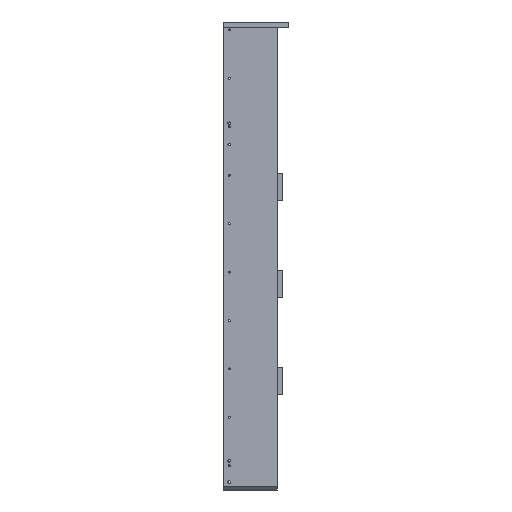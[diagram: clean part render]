
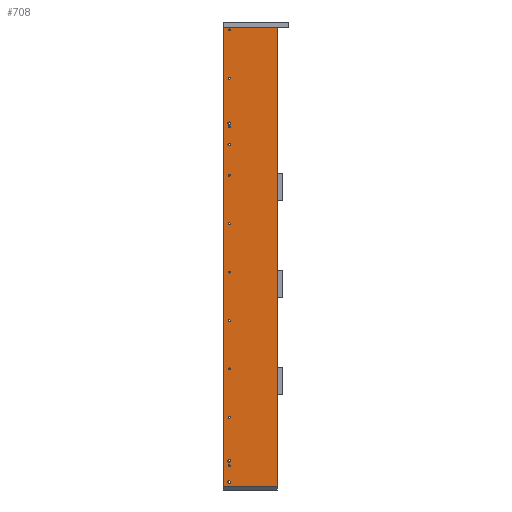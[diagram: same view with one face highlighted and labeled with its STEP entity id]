
A CAD part, left-side view. The second image highlights one B-rep face of the part: STEP entity #708.
In plain terms, the highlighted planar face has unit normal (-1, 0, 0).
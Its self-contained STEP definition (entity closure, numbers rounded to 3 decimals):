
#120=FACE_BOUND('',#1236,.T.);
#121=FACE_BOUND('',#1237,.T.);
#122=FACE_BOUND('',#1238,.T.);
#123=FACE_BOUND('',#1239,.T.);
#124=FACE_BOUND('',#1240,.T.);
#125=FACE_BOUND('',#1241,.T.);
#126=FACE_BOUND('',#1242,.T.);
#127=FACE_BOUND('',#1243,.T.);
#128=FACE_BOUND('',#1244,.T.);
#129=FACE_BOUND('',#1245,.T.);
#130=FACE_BOUND('',#1246,.T.);
#131=FACE_BOUND('',#1247,.T.);
#132=FACE_BOUND('',#1248,.T.);
#133=FACE_BOUND('',#1249,.T.);
#134=FACE_BOUND('',#1250,.T.);
#371=CIRCLE('',#4027,3.4);
#372=CIRCLE('',#4028,3.4);
#373=CIRCLE('',#4029,3.4);
#374=CIRCLE('',#4030,3.4);
#375=CIRCLE('',#4031,2.5);
#376=CIRCLE('',#4032,2.5);
#377=CIRCLE('',#4033,2.5);
#378=CIRCLE('',#4034,2.5);
#379=CIRCLE('',#4035,2.5);
#380=CIRCLE('',#4036,2.5);
#381=CIRCLE('',#4037,2.5);
#382=CIRCLE('',#4038,2.5);
#383=CIRCLE('',#4039,2.5);
#384=CIRCLE('',#4040,2.5);
#708=ADVANCED_FACE('',(#120,#121,#122,#123,#124,#125,#126,#127,#128,#129,
#130,#131,#132,#133,#134),#926,.F.);
#926=PLANE('',#4041);
#1236=EDGE_LOOP('',(#1737));
#1237=EDGE_LOOP('',(#1738));
#1238=EDGE_LOOP('',(#1739));
#1239=EDGE_LOOP('',(#1740));
#1240=EDGE_LOOP('',(#1741));
#1241=EDGE_LOOP('',(#1742));
#1242=EDGE_LOOP('',(#1743));
#1243=EDGE_LOOP('',(#1744));
#1244=EDGE_LOOP('',(#1745));
#1245=EDGE_LOOP('',(#1746));
#1246=EDGE_LOOP('',(#1747));
#1247=EDGE_LOOP('',(#1748));
#1248=EDGE_LOOP('',(#1749));
#1249=EDGE_LOOP('',(#1750));
#1250=EDGE_LOOP('',(#1751,#1752,#1753,#1754));
#1737=ORIENTED_EDGE('',*,*,#2921,.T.);
#1738=ORIENTED_EDGE('',*,*,#2922,.T.);
#1739=ORIENTED_EDGE('',*,*,#2923,.T.);
#1740=ORIENTED_EDGE('',*,*,#2924,.T.);
#1741=ORIENTED_EDGE('',*,*,#2925,.T.);
#1742=ORIENTED_EDGE('',*,*,#2926,.T.);
#1743=ORIENTED_EDGE('',*,*,#2927,.T.);
#1744=ORIENTED_EDGE('',*,*,#2928,.T.);
#1745=ORIENTED_EDGE('',*,*,#2929,.T.);
#1746=ORIENTED_EDGE('',*,*,#2930,.T.);
#1747=ORIENTED_EDGE('',*,*,#2931,.T.);
#1748=ORIENTED_EDGE('',*,*,#2932,.T.);
#1749=ORIENTED_EDGE('',*,*,#2933,.T.);
#1750=ORIENTED_EDGE('',*,*,#2934,.T.);
#1751=ORIENTED_EDGE('',*,*,#2935,.T.);
#1752=ORIENTED_EDGE('',*,*,#2936,.T.);
#1753=ORIENTED_EDGE('',*,*,#2937,.T.);
#1754=ORIENTED_EDGE('',*,*,#2938,.T.);
#2553=VERTEX_POINT('',#5527);
#2554=VERTEX_POINT('',#5529);
#2555=VERTEX_POINT('',#5531);
#2556=VERTEX_POINT('',#5533);
#2557=VERTEX_POINT('',#5535);
#2558=VERTEX_POINT('',#5537);
#2559=VERTEX_POINT('',#5539);
#2560=VERTEX_POINT('',#5541);
#2561=VERTEX_POINT('',#5543);
#2562=VERTEX_POINT('',#5545);
#2563=VERTEX_POINT('',#5547);
#2564=VERTEX_POINT('',#5549);
#2565=VERTEX_POINT('',#5551);
#2566=VERTEX_POINT('',#5553);
#2567=VERTEX_POINT('',#5555);
#2568=VERTEX_POINT('',#5556);
#2569=VERTEX_POINT('',#5558);
#2570=VERTEX_POINT('',#5560);
#2921=EDGE_CURVE('',#2553,#2553,#371,.T.);
#2922=EDGE_CURVE('',#2554,#2554,#372,.T.);
#2923=EDGE_CURVE('',#2555,#2555,#373,.T.);
#2924=EDGE_CURVE('',#2556,#2556,#374,.T.);
#2925=EDGE_CURVE('',#2557,#2557,#375,.T.);
#2926=EDGE_CURVE('',#2558,#2558,#376,.T.);
#2927=EDGE_CURVE('',#2559,#2559,#377,.T.);
#2928=EDGE_CURVE('',#2560,#2560,#378,.T.);
#2929=EDGE_CURVE('',#2561,#2561,#379,.T.);
#2930=EDGE_CURVE('',#2562,#2562,#380,.T.);
#2931=EDGE_CURVE('',#2563,#2563,#381,.T.);
#2932=EDGE_CURVE('',#2564,#2564,#382,.T.);
#2933=EDGE_CURVE('',#2565,#2565,#383,.T.);
#2934=EDGE_CURVE('',#2566,#2566,#384,.T.);
#2935=EDGE_CURVE('',#2567,#2568,#3361,.T.);
#2936=EDGE_CURVE('',#2568,#2569,#3362,.T.);
#2937=EDGE_CURVE('',#2569,#2570,#3363,.T.);
#2938=EDGE_CURVE('',#2570,#2567,#3364,.T.);
#3361=LINE('',#5554,#3703);
#3362=LINE('',#5557,#3704);
#3363=LINE('',#5559,#3705);
#3364=LINE('',#5561,#3706);
#3703=VECTOR('',#4526,1.);
#3704=VECTOR('',#4527,1.);
#3705=VECTOR('',#4528,1.);
#3706=VECTOR('',#4529,1.);
#4027=AXIS2_PLACEMENT_3D('',#5526,#4498,#4499);
#4028=AXIS2_PLACEMENT_3D('',#5528,#4500,#4501);
#4029=AXIS2_PLACEMENT_3D('',#5530,#4502,#4503);
#4030=AXIS2_PLACEMENT_3D('',#5532,#4504,#4505);
#4031=AXIS2_PLACEMENT_3D('',#5534,#4506,#4507);
#4032=AXIS2_PLACEMENT_3D('',#5536,#4508,#4509);
#4033=AXIS2_PLACEMENT_3D('',#5538,#4510,#4511);
#4034=AXIS2_PLACEMENT_3D('',#5540,#4512,#4513);
#4035=AXIS2_PLACEMENT_3D('',#5542,#4514,#4515);
#4036=AXIS2_PLACEMENT_3D('',#5544,#4516,#4517);
#4037=AXIS2_PLACEMENT_3D('',#5546,#4518,#4519);
#4038=AXIS2_PLACEMENT_3D('',#5548,#4520,#4521);
#4039=AXIS2_PLACEMENT_3D('',#5550,#4522,#4523);
#4040=AXIS2_PLACEMENT_3D('',#5552,#4524,#4525);
#4041=AXIS2_PLACEMENT_3D('',#5562,#4530,#4531);
#4498=DIRECTION('',(1.,0.,0.));
#4499=DIRECTION('',(0.,-1.,0.));
#4500=DIRECTION('',(1.,0.,0.));
#4501=DIRECTION('',(0.,-1.,0.));
#4502=DIRECTION('',(1.,0.,0.));
#4503=DIRECTION('',(0.,-1.,0.));
#4504=DIRECTION('',(1.,0.,0.));
#4505=DIRECTION('',(0.,-1.,0.));
#4506=DIRECTION('',(1.,0.,0.));
#4507=DIRECTION('',(0.,-1.,0.));
#4508=DIRECTION('',(1.,0.,0.));
#4509=DIRECTION('',(0.,-1.,0.));
#4510=DIRECTION('',(1.,0.,0.));
#4511=DIRECTION('',(0.,-1.,0.));
#4512=DIRECTION('',(1.,0.,0.));
#4513=DIRECTION('',(0.,-1.,0.));
#4514=DIRECTION('',(1.,0.,0.));
#4515=DIRECTION('',(0.,-1.,0.));
#4516=DIRECTION('',(1.,0.,0.));
#4517=DIRECTION('',(0.,-1.,0.));
#4518=DIRECTION('',(1.,0.,0.));
#4519=DIRECTION('',(0.,-1.,0.));
#4520=DIRECTION('',(1.,0.,0.));
#4521=DIRECTION('',(0.,-1.,0.));
#4522=DIRECTION('',(1.,0.,0.));
#4523=DIRECTION('',(0.,-1.,0.));
#4524=DIRECTION('',(1.,0.,0.));
#4525=DIRECTION('',(0.,-1.,0.));
#4526=DIRECTION('',(0.,0.,-1.));
#4527=DIRECTION('',(0.,-1.,0.));
#4528=DIRECTION('',(0.,0.,1.));
#4529=DIRECTION('',(0.,1.,0.));
#4530=DIRECTION('',(1.,0.,0.));
#4531=DIRECTION('',(0.,-1.,0.));
#5526=CARTESIAN_POINT('',(-456.,124.,108.744));
#5527=CARTESIAN_POINT('',(-456.,120.6,108.744));
#5528=CARTESIAN_POINT('',(-456.,124.,163.744));
#5529=CARTESIAN_POINT('',(-456.,120.6,163.744));
#5530=CARTESIAN_POINT('',(-456.,124.,-762.256));
#5531=CARTESIAN_POINT('',(-456.,120.6,-762.256));
#5532=CARTESIAN_POINT('',(-456.,124.,-707.256));
#5533=CARTESIAN_POINT('',(-456.,120.6,-707.256));
#5534=CARTESIAN_POINT('',(-456.,124.,404.744));
#5535=CARTESIAN_POINT('',(-456.,121.5,404.744));
#5536=CARTESIAN_POINT('',(-456.,124.,279.744));
#5537=CARTESIAN_POINT('',(-456.,121.5,279.744));
#5538=CARTESIAN_POINT('',(-456.,124.,154.744));
#5539=CARTESIAN_POINT('',(-456.,121.5,154.744));
#5540=CARTESIAN_POINT('',(-456.,124.,29.744));
#5541=CARTESIAN_POINT('',(-456.,121.5,29.744));
#5542=CARTESIAN_POINT('',(-456.,124.,-95.256));
#5543=CARTESIAN_POINT('',(-456.,121.5,-95.256));
#5544=CARTESIAN_POINT('',(-456.,124.,-220.256));
#5545=CARTESIAN_POINT('',(-456.,121.5,-220.256));
#5546=CARTESIAN_POINT('',(-456.,124.,-345.256));
#5547=CARTESIAN_POINT('',(-456.,121.5,-345.256));
#5548=CARTESIAN_POINT('',(-456.,124.,-470.256));
#5549=CARTESIAN_POINT('',(-456.,121.5,-470.256));
#5550=CARTESIAN_POINT('',(-456.,124.,-595.256));
#5551=CARTESIAN_POINT('',(-456.,121.5,-595.256));
#5552=CARTESIAN_POINT('',(-456.,124.,-720.256));
#5553=CARTESIAN_POINT('',(-456.,121.5,-720.256));
#5554=CARTESIAN_POINT('',(-456.,140.,407.244));
#5555=CARTESIAN_POINT('',(-456.,140.,410.244));
#5556=CARTESIAN_POINT('',(-456.,140.,-774.756));
#5557=CARTESIAN_POINT('',(-456.,0.,-774.756));
#5558=CARTESIAN_POINT('',(-456.,0.,-774.756));
#5559=CARTESIAN_POINT('',(-456.,0.,-672.756));
#5560=CARTESIAN_POINT('',(-456.,0.,410.244));
#5561=CARTESIAN_POINT('',(-456.,0.,410.244));
#5562=CARTESIAN_POINT('',(-456.,0.,-672.756));
